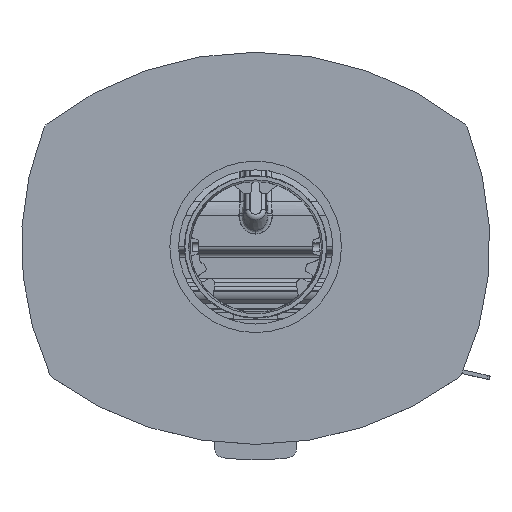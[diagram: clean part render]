
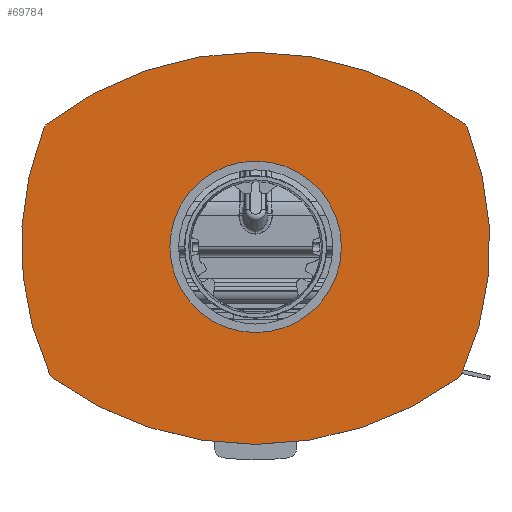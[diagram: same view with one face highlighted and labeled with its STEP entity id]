
A CAD part, top view. The second image highlights one B-rep face of the part: STEP entity #69784.
In plain terms, the highlighted planar face has unit normal (0, 0, 1).
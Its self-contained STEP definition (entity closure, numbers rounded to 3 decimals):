
#4684=FACE_BOUND('',#12674,.T.);
#8630=FACE_OUTER_BOUND('',#12673,.T.);
#12673=EDGE_LOOP('',(#60545,#60546,#60547,#60548,#60549,#60550,#60551,#60552));
#12674=EDGE_LOOP('',(#60553));
#16002=CIRCLE('',#76373,89.);
#16005=CIRCLE('',#76377,10.);
#16006=CIRCLE('',#76379,355.);
#16007=CIRCLE('',#76380,10.);
#16008=CIRCLE('',#76381,323.);
#16009=CIRCLE('',#76382,10.);
#16010=CIRCLE('',#76383,352.);
#16011=CIRCLE('',#76384,10.);
#16012=CIRCLE('',#76385,323.);
#31203=VERTEX_POINT('',#170620);
#31207=VERTEX_POINT('',#170629);
#31208=VERTEX_POINT('',#170631);
#31209=VERTEX_POINT('',#170635);
#31210=VERTEX_POINT('',#170637);
#31211=VERTEX_POINT('',#170639);
#31212=VERTEX_POINT('',#170641);
#31213=VERTEX_POINT('',#170643);
#31214=VERTEX_POINT('',#170645);
#40984=EDGE_CURVE('',#31203,#31203,#16002,.T.);
#40989=EDGE_CURVE('',#31207,#31208,#16005,.T.);
#40991=EDGE_CURVE('',#31209,#31207,#16006,.T.);
#40992=EDGE_CURVE('',#31210,#31209,#16007,.T.);
#40993=EDGE_CURVE('',#31211,#31210,#16008,.T.);
#40994=EDGE_CURVE('',#31212,#31211,#16009,.T.);
#40995=EDGE_CURVE('',#31213,#31212,#16010,.T.);
#40996=EDGE_CURVE('',#31214,#31213,#16011,.T.);
#40997=EDGE_CURVE('',#31208,#31214,#16012,.T.);
#60545=ORIENTED_EDGE('',*,*,#40989,.F.);
#60546=ORIENTED_EDGE('',*,*,#40991,.F.);
#60547=ORIENTED_EDGE('',*,*,#40992,.F.);
#60548=ORIENTED_EDGE('',*,*,#40993,.F.);
#60549=ORIENTED_EDGE('',*,*,#40994,.F.);
#60550=ORIENTED_EDGE('',*,*,#40995,.F.);
#60551=ORIENTED_EDGE('',*,*,#40996,.F.);
#60552=ORIENTED_EDGE('',*,*,#40997,.F.);
#60553=ORIENTED_EDGE('',*,*,#40984,.T.);
#61832=PLANE('',#76378);
#69784=ADVANCED_FACE('',(#8630,#4684),#61832,.F.);
#76373=AXIS2_PLACEMENT_3D('',#170621,#94044,#94045);
#76377=AXIS2_PLACEMENT_3D('',#170632,#94054,#94055);
#76378=AXIS2_PLACEMENT_3D('',#170634,#94057,#94058);
#76379=AXIS2_PLACEMENT_3D('',#170636,#94059,#94060);
#76380=AXIS2_PLACEMENT_3D('',#170638,#94061,#94062);
#76381=AXIS2_PLACEMENT_3D('',#170640,#94063,#94064);
#76382=AXIS2_PLACEMENT_3D('',#170642,#94065,#94066);
#76383=AXIS2_PLACEMENT_3D('',#170644,#94067,#94068);
#76384=AXIS2_PLACEMENT_3D('',#170646,#94069,#94070);
#76385=AXIS2_PLACEMENT_3D('',#170647,#94071,#94072);
#94044=DIRECTION('center_axis',(0.,0.,
-1.));
#94045=DIRECTION('ref_axis',(1.,0.,0.));
#94054=DIRECTION('center_axis',(0.,0.,
-1.));
#94055=DIRECTION('ref_axis',(-0.776,-0.631,0.));
#94057=DIRECTION('center_axis',(0.,0.,
-1.));
#94058=DIRECTION('ref_axis',(1.,0.,0.));
#94059=DIRECTION('center_axis',(0.,0.,
-1.));
#94060=DIRECTION('ref_axis',(0.599,-0.801,0.));
#94061=DIRECTION('center_axis',(0.,0.,
-1.));
#94062=DIRECTION('ref_axis',(0.776,-0.631,0.));
#94063=DIRECTION('center_axis',(0.,0.,
-1.));
#94064=DIRECTION('ref_axis',(0.924,0.382,0.));
#94065=DIRECTION('center_axis',(0.,0.,
-1.));
#94066=DIRECTION('ref_axis',(0.798,0.602,0.));
#94067=DIRECTION('center_axis',(0.,0.,
-1.));
#94068=DIRECTION('ref_axis',(-0.621,0.784,0.));
#94069=DIRECTION('center_axis',(0.,0.,
-1.));
#94070=DIRECTION('ref_axis',(-0.798,0.602,0.));
#94071=DIRECTION('center_axis',(0.,0.,
-1.));
#94072=DIRECTION('ref_axis',(-0.906,-0.424,0.));
#170620=CARTESIAN_POINT('',(-89.,-150.,354.));
#170621=CARTESIAN_POINT('Origin',(0.,-150.,
354.));
#170629=CARTESIAN_POINT('',(-210.525,-285.84,354.));
#170631=CARTESIAN_POINT('',(-213.687,-281.95,354.));
#170632=CARTESIAN_POINT('Origin',(-204.595,-277.788,354.));
#170634=CARTESIAN_POINT('Origin',(0.,-151.453,
354.));
#170635=CARTESIAN_POINT('',(210.525,-285.84,354.));
#170636=CARTESIAN_POINT('Origin',(0.,0.,
354.));
#170637=CARTESIAN_POINT('',(213.687,-281.95,354.));
#170638=CARTESIAN_POINT('Origin',(204.595,-277.788,354.));
#170639=CARTESIAN_POINT('',(219.469,-26.473,354.));
#170640=CARTESIAN_POINT('Origin',(-80.,-147.5,354.));
#170641=CARTESIAN_POINT('',(216.343,-22.332,354.));
#170642=CARTESIAN_POINT('Origin',(210.197,-30.22,354.));
#170643=CARTESIAN_POINT('',(-216.343,-22.332,354.));
#170644=CARTESIAN_POINT('Origin',(0.,-300.,
354.));
#170645=CARTESIAN_POINT('',(-219.469,-26.473,354.));
#170646=CARTESIAN_POINT('Origin',(-210.197,-30.22,354.));
#170647=CARTESIAN_POINT('Origin',(80.,-147.5,354.));
